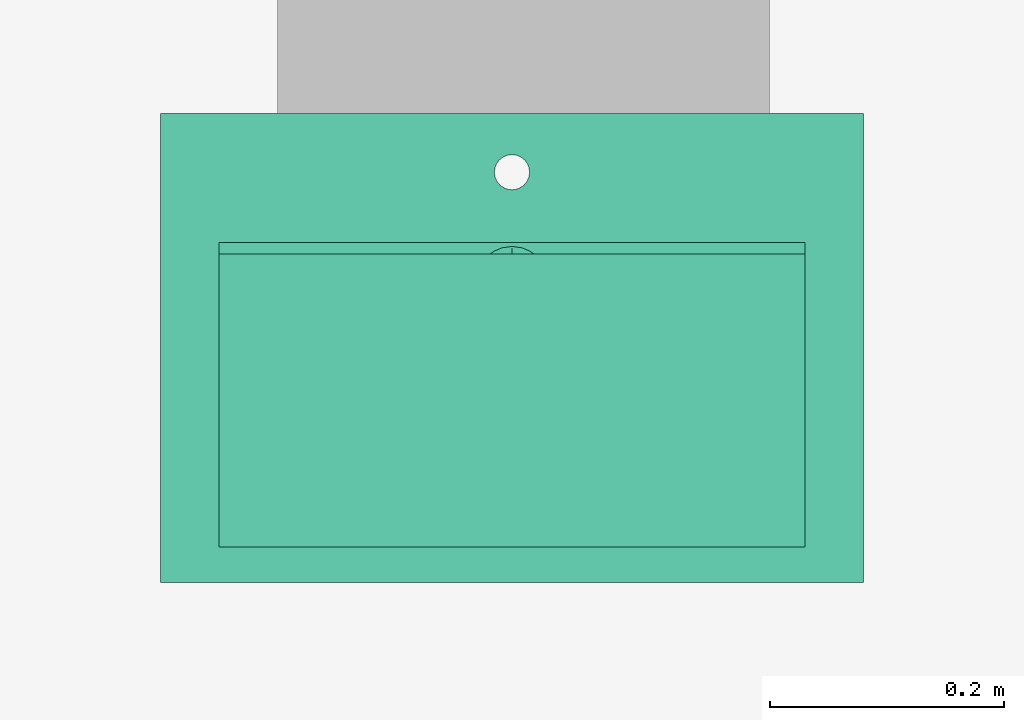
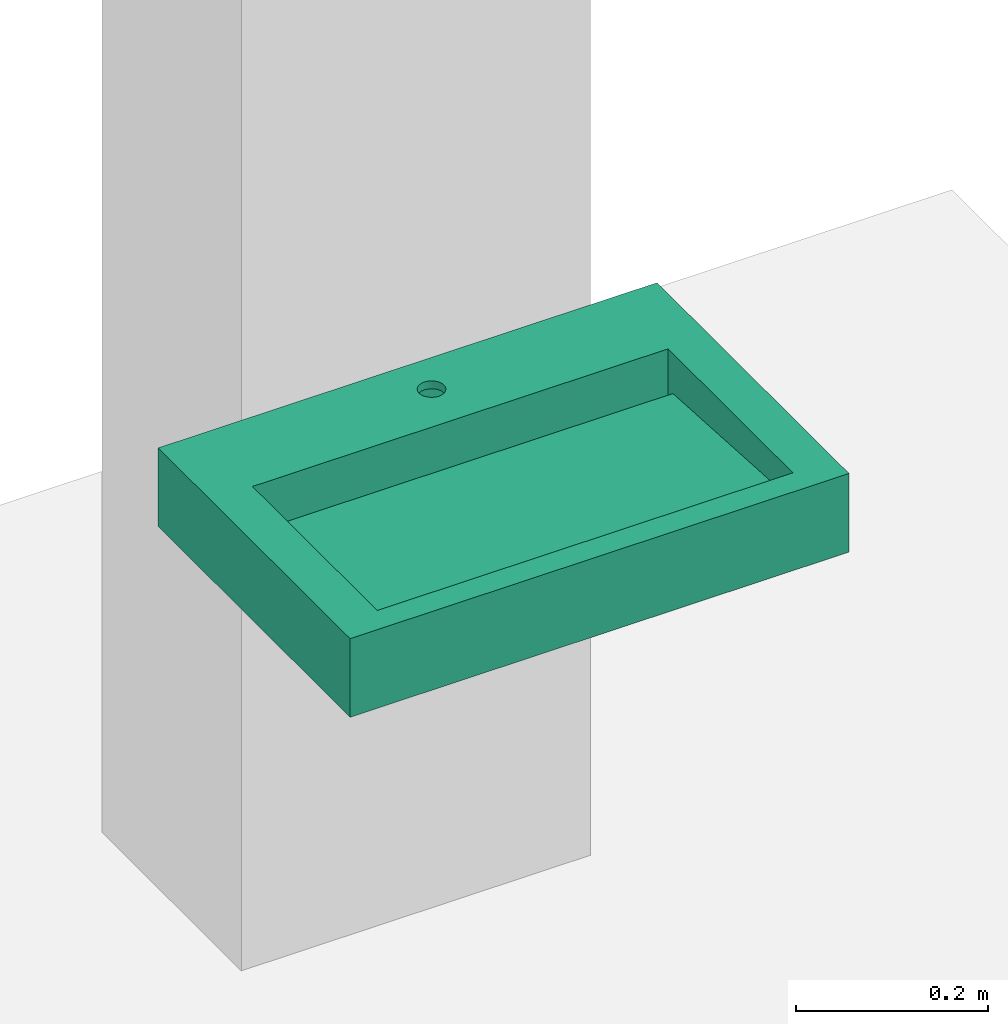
# One storey, part 2 of 2: 1 flow terminal.
"""IFC2X3 building model written with IfcOpenShell, lengths in millimetres."""

from ifc_helpers import new_model, entity, si_unit, converted_unit, derived_unit, direction, frame, origin, place, context, subcontext, project, spatial, faceted_brep, source, transform, mapped, material, element, save


model = new_model("IFC2X3")

# Units and contexts
model_context = context("Model", 3, precision=0.01, world=origin(), true_north=direction((6.12303176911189e-17, 1.0)))
context_of_model = context(None, 3, precision=0.01, world=origin(), true_north=direction((6.12303176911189e-17, 1.0)))
body_context = subcontext(model_context, "Body", "Model", "MODEL_VIEW")
ifc_project = project(units=[si_unit("LENGTHUNIT", "METRE", prefix="MILLI"), si_unit("AREAUNIT", "SQUARE_METRE"), si_unit("VOLUMEUNIT", "CUBIC_METRE"), converted_unit("PLANEANGLEUNIT", "DEGREE", entity("IfcRatioMeasure", 0.0174532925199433), si_unit("PLANEANGLEUNIT", "RADIAN"), dimensions=[0, 0, 0, 0, 0, 0, 0]), si_unit("MASSUNIT", "GRAM", prefix="KILO"), derived_unit("MASSDENSITYUNIT", [(si_unit("MASSUNIT", "GRAM", prefix="KILO"), 1), (si_unit("LENGTHUNIT", "METRE"), -3)]), si_unit("TIMEUNIT", "SECOND"), si_unit("FREQUENCYUNIT", "HERTZ"), si_unit("THERMODYNAMICTEMPERATUREUNIT", "DEGREE_CELSIUS"), derived_unit("THERMALTRANSMITTANCEUNIT", [(si_unit("MASSUNIT", "GRAM", prefix="KILO"), 1), (si_unit("THERMODYNAMICTEMPERATUREUNIT", "KELVIN"), -1), (si_unit("TIMEUNIT", "SECOND"), -3)]), derived_unit("VOLUMETRICFLOWRATEUNIT", [(si_unit("LENGTHUNIT", "METRE"), 3), (si_unit("TIMEUNIT", "SECOND"), -1)]), si_unit("ELECTRICCURRENTUNIT", "AMPERE"), si_unit("ELECTRICVOLTAGEUNIT", "VOLT"), si_unit("POWERUNIT", "WATT"), si_unit("FORCEUNIT", "NEWTON", prefix="KILO"), si_unit("ILLUMINANCEUNIT", "LUX"), si_unit("LUMINOUSFLUXUNIT", "LUMEN"), si_unit("LUMINOUSINTENSITYUNIT", "CANDELA"), derived_unit("USERDEFINED", [(si_unit("MASSUNIT", "GRAM", prefix="KILO"), -1), (si_unit("LENGTHUNIT", "METRE"), -2), (si_unit("TIMEUNIT", "SECOND"), 3), (si_unit("LUMINOUSFLUXUNIT", "LUMEN"), 1)]), derived_unit("LINEARVELOCITYUNIT", [(si_unit("LENGTHUNIT", "METRE"), 1), (si_unit("TIMEUNIT", "SECOND"), -1)]), si_unit("PRESSUREUNIT", "PASCAL"), derived_unit("USERDEFINED", [(si_unit("LENGTHUNIT", "METRE"), -2), (si_unit("MASSUNIT", "GRAM", prefix="KILO"), 1), (si_unit("TIMEUNIT", "SECOND"), -2)])], contexts=[model_context, context_of_model])

# Site, building, storey
site_placement = place(None, origin())
site = spatial("IfcSite", under=ifc_project, at=site_placement, Name="Default", CompositionType="ELEMENT")
building_placement = place(site_placement, origin())
building = spatial("IfcBuilding", under=site, at=building_placement, Name="n/a", CompositionType="ELEMENT")
storey_placement = place(building_placement, origin())
storey = spatial("IfcBuildingStorey", under=building, at=storey_placement, Name="Level 0", CompositionType="ELEMENT", Elevation=0.0)

# Flow terminal
ifc_material = material(Name="DBLTD_Neilur_SolidSurface_White")
shared_shape = source(origin(), body_context, "Body", "Brep", [
    faceted_brep([(550.0, 119.809705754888, 37.1775504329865), (550.0, 179.800043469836, 40.7774538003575), (550.0, 179.800043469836, 20.0), (550.0, 109.809705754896, 20.0), (550.0, 109.809705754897, 100.002105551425), (550.0, 369.777360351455, 100.002105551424), (550.0, 369.777360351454, 64.195190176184), (550.0, 119.809705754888, 49.1962705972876), (550.0, 191.799619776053, 41.497525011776), (550.0, 387.775045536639, 53.2576287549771), (550.0, 387.775045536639, 0.00210555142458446), (550.0, 191.799619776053, 0.00210555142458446), (50.0, 387.775045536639, 0.00210555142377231), (50.0, 387.775045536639, 53.2576287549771), (50.0, 191.799619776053, 41.497525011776), (50.0, 191.799619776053, 0.00210555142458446), (50.0, 119.809705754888, 49.1962705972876), (50.0, 369.777360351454, 64.195190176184), (50.0, 369.777360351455, 100.002105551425), (50.0, 109.809705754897, 100.002105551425), (50.0, 109.809705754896, 20.0), (50.0, 179.800043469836, 20.0), (50.0, 179.800043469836, 40.7774538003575), (50.0, 119.809705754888, 37.1775504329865), (600.0, 400.0, 100.002105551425), (600.0, 0.0, 100.002105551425), (0.0, 400.0, 100.002105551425), (0.0, 0.0, 100.002105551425), (285.511112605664, 46.0648817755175, 100.002105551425), (287.009618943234, 42.4471674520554, 100.002105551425), (289.393398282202, 39.3405657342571, 100.002105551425), (292.5, 36.9567863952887, 100.002105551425), (296.117714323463, 35.4582800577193, 100.002105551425), (300.0, 34.9471674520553, 100.002105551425), (314.488887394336, 46.0648817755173, 100.002105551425), (312.990381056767, 42.4471674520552, 100.002105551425), (310.606601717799, 39.340565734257, 100.002105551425), (307.5, 36.9567863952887, 100.002105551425), (303.882285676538, 35.4582800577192, 100.002105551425), (285.0, 49.9471674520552, 100.002105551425), (285.511112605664, 53.8294531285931, 100.002105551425), (287.009618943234, 57.4471674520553, 100.002105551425), (289.393398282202, 60.5537691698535, 100.002105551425), (292.5, 62.9375485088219, 100.002105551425), (296.117714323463, 64.4360548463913, 100.002105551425), (300.0, 64.9471674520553, 100.002105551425), (303.882285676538, 64.4360548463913, 100.002105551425), (307.5, 62.9375485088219, 100.002105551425), (310.606601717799, 60.5537691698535, 100.002105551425), (312.990381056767, 57.4471674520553, 100.002105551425), (314.488887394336, 53.8294531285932, 100.002105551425), (315.0, 49.9471674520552, 100.002105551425), (0.0, 400.0, 0.00210555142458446), (11.0, 102.54943937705, 0.00210555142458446), (0.0, 0.0, 0.00210555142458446), (600.0, 400.0, 0.00210555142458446), (589.0, 102.54943937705, 0.00210555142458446), (600.0, 0.0, 0.00210555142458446), (589.0, 11.0, 0.00210555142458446), (11.0, 11.0, 0.00210555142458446), (300.0, 129.760228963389, 0.00210555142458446), (303.89509121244, 130.273027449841, 0.00210555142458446), (307.524738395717, 131.776476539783, 0.00210555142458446), (310.641587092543, 134.168118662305, 0.00210555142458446), (314.536678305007, 140.914614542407, 0.00210555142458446), (313.033229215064, 137.28496735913, 0.00210555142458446), (315.049476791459, 144.809705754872, 0.00210555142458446), (314.536678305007, 148.704796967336, 0.00210555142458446), (313.033229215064, 152.334444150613, 0.00210555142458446), (310.641587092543, 155.451292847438, 0.00210555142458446), (307.524738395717, 157.84293496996, 0.00210555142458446), (303.89509121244, 159.346384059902, 0.00210555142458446), (300.0, 159.859182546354, 0.00210555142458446), (296.104908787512, 159.346384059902, 0.00210555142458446), (292.475261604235, 157.84293496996, 0.00210555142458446), (289.358412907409, 155.451292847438, 0.00210555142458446), (286.966770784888, 152.334444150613, 0.00210555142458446), (285.463321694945, 148.704796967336, 0.00210555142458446), (284.950523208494, 144.809705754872, 0.00210555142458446), (285.463321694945, 140.914614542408, 0.00210555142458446), (286.966770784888, 137.28496735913, 0.00210555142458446), (289.358412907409, 134.168118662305, 0.00210555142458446), (292.475261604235, 131.776476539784, 0.00210555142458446), (296.104908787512, 130.273027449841, 0.00210555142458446), (46.0, 0.0, 56.9303087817), (47.9294476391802, 0.0, 57.7295121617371), (44.343145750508, 0.0, 55.6589598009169), (50.0, 0.0, 58.0021055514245), (52.0705523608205, 0.0, 57.7295121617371), (54.0, 0.0, 56.9303087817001), (43.0717967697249, 0.0, 54.0021055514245), (42.2725933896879, 0.0, 52.0726579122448), (42.0, 0.0, 50.0021055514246), (42.2725933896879, 0.0, 47.9315531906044), (43.0717967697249, 0.0, 46.0021055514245), (44.343145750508, 0.0, 44.3452513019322), (46.0, 0.0, 43.073902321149), (47.9294476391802, 0.0, 42.2746989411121), (50.0, 0.0, 42.0021055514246), (52.0705523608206, 0.0, 42.2746989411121), (54.0, 0.0, 43.073902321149), (546.0, 0.0, 43.073902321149), (547.92944763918, 0.0, 42.2746989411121), (550.0, 0.0, 42.0021055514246), (552.070552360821, 0.0, 42.2746989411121), (554.0, 0.0, 43.073902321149), (555.656854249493, 0.0, 44.3452513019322), (556.928203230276, 0.0, 46.0021055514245), (557.727406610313, 0.0, 47.9315531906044), (558.0, 0.0, 50.0021055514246), (546.0, 0.0, 56.9303087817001), (547.92944763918, 0.0, 57.7295121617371), (550.0, 0.0, 58.0021055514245), (552.070552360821, 0.0, 57.7295121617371), (554.0, 0.0, 56.9303087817), (555.656854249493, 0.0, 55.6589598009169), (556.928203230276, 0.0, 54.0021055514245), (557.727406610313, 0.0, 52.0726579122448), (55.6568542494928, 0.0, 44.3452513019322), (544.343145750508, 0.0, 44.3452513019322), (56.9282032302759, 0.0, 46.0021055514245), (543.071796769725, 0.0, 46.0021055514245), (57.727406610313, 0.0, 47.9315531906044), (542.272593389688, 0.0, 47.9315531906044), (58.0, 0.0, 50.0021055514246), (542.0, 0.0, 50.0021055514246), (542.272593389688, 0.0, 52.0726579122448), (57.727406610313, 0.0, 52.0726579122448), (543.071796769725, 0.0, 54.0021055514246), (56.9282032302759, 0.0, 54.0021055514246), (544.343145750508, 0.0, 55.6589598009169), (55.6568542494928, 0.0, 55.6589598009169), (287.009618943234, 42.4471674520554, 90.0021055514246), (285.511112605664, 46.0648817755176, 90.0021055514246), (285.0, 49.9471674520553, 90.0021055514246), (296.117714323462, 35.4582800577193, 90.0021055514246), (292.5, 36.9567863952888, 90.0021055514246), (289.393398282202, 39.3405657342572, 90.0021055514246), (300.0, 34.9471674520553, 90.0021055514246), (310.606601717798, 39.3405657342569, 90.0021055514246), (307.5, 36.9567863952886, 90.0021055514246), (303.882285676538, 35.4582800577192, 90.0021055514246), (315.0, 49.947167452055, 90.0021055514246), (314.488887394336, 46.0648817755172, 90.0021055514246), (312.990381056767, 42.4471674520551, 90.0021055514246), (312.990381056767, 57.4471674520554, 90.0021055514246), (314.488887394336, 53.8294531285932, 90.0021055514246), (303.882285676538, 64.4360548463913, 90.0021055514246), (307.5, 62.9375485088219, 90.0021055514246), (310.606601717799, 60.5537691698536, 90.0021055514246), (300.0, 64.9471674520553, 90.0021055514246), (296.117714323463, 64.4360548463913, 90.0021055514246), (292.5, 62.9375485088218, 90.0021055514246), (289.393398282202, 60.5537691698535, 90.0021055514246), (285.511112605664, 53.829453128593, 90.0021055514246), (287.009618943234, 57.4471674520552, 90.0021055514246), (589.0, 102.54943937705, 90.0021055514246), (11.0, 102.54943937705, 90.0021055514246), (11.0, 11.0, 90.0021055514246), (589.0, 11.0, 90.0021055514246), (47.9294476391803, 11.0, 57.7295121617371), (46.0, 11.0, 56.9303087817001), (50.0, 11.0, 58.0021055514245), (44.3431457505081, 11.0, 55.6589598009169), (43.071796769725, 11.0, 54.0021055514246), (42.2725933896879, 11.0, 52.0726579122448), (42.0, 11.0, 50.0021055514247), (42.2725933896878, 11.0, 47.9315531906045), (43.0717967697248, 11.0, 46.0021055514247), (44.343145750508, 11.0, 44.3452513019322), (46.0, 11.0, 43.0739023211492), (47.9294476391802, 11.0, 42.2746989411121), (50.0, 11.0, 42.0021055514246), (52.0705523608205, 11.0, 42.2746989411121), (54.0, 11.0, 43.073902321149), (55.6568542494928, 11.0, 44.3452513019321), (544.343145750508, 11.0, 44.3452513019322), (56.9282032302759, 11.0, 46.0021055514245), (543.071796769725, 11.0, 46.0021055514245), (57.727406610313, 11.0, 47.9315531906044), (542.272593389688, 11.0, 47.9315531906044), (58.0, 11.0, 50.0021055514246), (542.0, 11.0, 50.0021055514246), (542.272593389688, 11.0, 52.0726579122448), (57.727406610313, 11.0, 52.0726579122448), (543.071796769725, 11.0, 54.0021055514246), (56.9282032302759, 11.0, 54.0021055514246), (544.343145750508, 11.0, 55.6589598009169), (55.6568542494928, 11.0, 55.6589598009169), (546.0, 11.0, 56.9303087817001), (54.0, 11.0, 56.9303087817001), (52.0705523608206, 11.0, 57.7295121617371), (547.92944763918, 11.0, 57.7295121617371), (550.0, 11.0, 58.0021055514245), (552.070552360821, 11.0, 57.7295121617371), (554.0, 11.0, 56.9303087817), (555.656854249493, 11.0, 55.6589598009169), (556.928203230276, 11.0, 54.0021055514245), (557.727406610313, 11.0, 52.0726579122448), (558.0, 11.0, 50.0021055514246), (557.727406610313, 11.0, 47.9315531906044), (546.0, 11.0, 43.073902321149), (547.92944763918, 11.0, 42.2746989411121), (550.0, 11.0, 42.0021055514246), (552.070552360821, 11.0, 42.2746989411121), (554.0, 11.0, 43.073902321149), (555.656854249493, 11.0, 44.3452513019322), (556.928203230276, 11.0, 46.0021055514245), (330.425250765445, 136.657284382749, 20.0), (327.278533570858, 129.060437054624, 20.0), (331.49853740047, 144.809705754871, 20.0), (322.272829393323, 122.536876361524, 20.0), (315.749268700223, 117.53117218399, 20.0), (308.152421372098, 114.384454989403, 20.0), (300.0, 113.311168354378, 20.0), (291.847578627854, 114.384454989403, 20.0), (284.250731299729, 117.53117218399, 20.0), (277.727170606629, 122.536876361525, 20.0), (272.721466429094, 129.060437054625, 20.0), (269.574749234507, 136.65728438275, 20.0), (268.501462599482, 144.809705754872, 20.0), (269.574749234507, 152.962127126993, 20.0), (272.721466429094, 160.558974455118, 20.0), (277.727170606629, 167.082535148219, 20.0), (284.250731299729, 172.088239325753, 20.0), (291.847578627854, 175.234956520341, 20.0), (300.0, 176.308243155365, 20.0), (308.152421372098, 175.234956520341, 20.0), (315.749268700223, 172.088239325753, 20.0), (322.272829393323, 167.082535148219, 20.0), (327.278533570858, 160.558974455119, 20.0), (330.425250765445, 152.962127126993, 20.0), (313.94750436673, 147.470102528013, 8.48224376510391), (311.743559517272, 152.790896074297, 8.48224376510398), (312.845531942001, 150.130499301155, 8.48224376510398), (302.660396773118, 158.757210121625, 8.48224376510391), (292.018809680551, 156.553265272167, 8.48224376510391), (300.0, 159.859182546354, 8.48224376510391), (307.981190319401, 156.553265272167, 8.48224376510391), (310.641587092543, 155.451292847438, 8.48224376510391), (315.049476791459, 144.809705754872, 8.48224376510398), (286.052495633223, 147.470102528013, 8.48224376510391), (305.320793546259, 157.655237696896, 8.48224376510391), (289.358412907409, 155.451292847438, 8.48224376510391), (297.339603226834, 158.757210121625, 8.48224376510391), (294.679206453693, 157.655237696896, 8.48224376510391), (284.950523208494, 144.809705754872, 8.48224376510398), (288.25644048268, 152.790896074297, 8.48224376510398), (287.154468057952, 150.130499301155, 8.48224376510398), (286.052495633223, 142.14930898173, 8.48224376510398), (288.25644048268, 136.828515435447, 8.48224376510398), (287.154468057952, 139.488912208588, 8.48224376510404), (297.339603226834, 130.862201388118, 8.48224376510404), (307.981190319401, 133.066146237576, 8.48224376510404), (300.0, 129.760228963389, 8.48224376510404), (292.018809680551, 133.066146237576, 8.48224376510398), (289.358412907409, 134.168118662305, 8.48224376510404), (313.94750436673, 142.14930898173, 8.48224376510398), (294.679206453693, 131.964173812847, 8.48224376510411), (310.641587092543, 134.168118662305, 8.48224376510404), (302.660396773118, 130.862201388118, 8.48224376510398), (305.320793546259, 131.964173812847, 8.48224376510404), (311.743559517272, 136.828515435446, 8.48224376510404), (312.845531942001, 139.488912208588, 8.48224376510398)], [[[0, 1, 2, 3, 4, 5, 6, 7]], [[8, 9, 10, 11]], [[12, 13, 14, 15]], [[16, 17, 18, 19, 20, 21, 22, 23]], [[24, 5, 4]], [[5, 24, 18]], [[24, 4, 25]], [[26, 18, 24]], [[18, 26, 19]], [[26, 27, 19]], [[19, 27, 28]], [[27, 29, 28]], [[29, 27, 30]], [[31, 30, 27]], [[31, 27, 32]], [[33, 32, 27]], [[33, 27, 25]], [[25, 4, 34]], [[25, 34, 35]], [[35, 36, 25]], [[36, 37, 25]], [[37, 38, 25]], [[25, 38, 33]], [[39, 19, 28]], [[40, 19, 39]], [[40, 41, 19]], [[41, 42, 19]], [[43, 19, 42]], [[44, 19, 43]], [[19, 44, 45]], [[46, 4, 45]], [[4, 19, 45]], [[47, 4, 46]], [[47, 48, 4]], [[48, 49, 4]], [[4, 49, 50]], [[51, 4, 50]], [[34, 4, 51]], [[52, 12, 15]], [[12, 52, 10]], [[52, 15, 53]], [[53, 54, 52]], [[55, 10, 52]], [[10, 55, 11]], [[55, 56, 11]], [[57, 56, 55]], [[56, 57, 58]], [[54, 58, 57]], [[59, 58, 54]], [[53, 60, 56]], [[61, 56, 60]], [[56, 61, 62]], [[63, 56, 62]], [[64, 11, 56]], [[65, 64, 56]], [[63, 65, 56]], [[66, 11, 64]], [[67, 11, 66]], [[67, 68, 11]], [[68, 69, 11]], [[70, 11, 69]], [[70, 71, 11]], [[11, 71, 72]], [[73, 15, 72]], [[15, 11, 72]], [[74, 15, 73]], [[75, 15, 74]], [[75, 76, 15]], [[76, 77, 15]], [[15, 77, 78]], [[79, 15, 78]], [[53, 15, 79]], [[79, 80, 53]], [[80, 81, 53]], [[53, 81, 82]], [[53, 82, 83]], [[53, 83, 60]], [[59, 54, 53]], [[26, 24, 55, 52]], [[27, 26, 52, 54]], [[27, 84, 85]], [[84, 27, 86]], [[27, 85, 87]], [[87, 88, 27]], [[88, 89, 27]], [[25, 27, 89]], [[90, 86, 27]], [[91, 90, 27]], [[27, 92, 91]], [[92, 27, 54]], [[93, 92, 54]], [[94, 93, 54]], [[54, 95, 94]], [[95, 54, 96]], [[96, 54, 97]], [[98, 97, 54]], [[99, 98, 54]], [[100, 99, 54]], [[57, 100, 54]], [[100, 57, 101]], [[102, 101, 57]], [[103, 102, 57]], [[57, 104, 103]], [[104, 57, 105]], [[106, 105, 57]], [[106, 57, 107]], [[108, 107, 57]], [[109, 108, 57]], [[109, 57, 25]], [[25, 89, 110]], [[110, 111, 25]], [[111, 112, 25]], [[113, 25, 112]], [[25, 113, 114]], [[25, 114, 115]], [[115, 116, 25]], [[116, 117, 25]], [[25, 117, 109]], [[100, 101, 118]], [[119, 118, 101]], [[120, 118, 119]], [[119, 121, 120]], [[122, 120, 121]], [[121, 123, 122]], [[123, 124, 122]], [[124, 123, 125]], [[125, 126, 124]], [[127, 124, 126]], [[126, 128, 127]], [[129, 127, 128]], [[128, 130, 129]], [[131, 129, 130]], [[131, 130, 110]], [[110, 89, 131]], [[24, 25, 57, 55]], [[29, 132, 133, 28]], [[28, 133, 134, 39]], [[32, 135, 136, 31]], [[31, 136, 137, 30]], [[30, 137, 132, 29]], [[135, 32, 33, 138]], [[36, 139, 140, 37]], [[37, 140, 141, 38]], [[51, 142, 143, 34]], [[34, 143, 144, 35]], [[35, 144, 139, 36]], [[138, 33, 38, 141]], [[49, 145, 146, 50]], [[50, 146, 142, 51]], [[46, 147, 148, 47]], [[47, 148, 149, 48]], [[48, 149, 145, 49]], [[46, 45, 150, 147]], [[151, 44, 43, 152]], [[152, 43, 42, 153]], [[154, 155, 41, 40]], [[41, 155, 153, 42]], [[134, 154, 40, 39]], [[150, 45, 44, 151]], [[146, 145, 156]], [[142, 146, 156]], [[149, 156, 145]], [[156, 149, 148]], [[156, 148, 147]], [[156, 147, 150]], [[150, 157, 156]], [[157, 150, 151]], [[157, 151, 152]], [[157, 152, 153]], [[153, 155, 157]], [[154, 157, 155]], [[157, 154, 134]], [[134, 158, 157]], [[158, 134, 133]], [[158, 133, 132]], [[132, 137, 158]], [[136, 158, 137]], [[158, 136, 135]], [[158, 135, 138]], [[159, 158, 138]], [[138, 141, 159]], [[159, 141, 140]], [[159, 140, 139]], [[159, 139, 144]], [[144, 143, 159]], [[143, 142, 159]], [[156, 159, 142]], [[56, 156, 157, 53]], [[53, 157, 158, 59]], [[160, 161, 158]], [[162, 160, 158]], [[163, 158, 161]], [[158, 163, 164]], [[158, 164, 165]], [[158, 165, 166]], [[166, 59, 158]], [[59, 166, 167]], [[59, 167, 168]], [[168, 169, 59]], [[170, 59, 169]], [[171, 59, 170]], [[59, 171, 172]], [[59, 172, 173]], [[59, 173, 174]], [[174, 175, 59]], [[58, 59, 175]], [[58, 175, 176]], [[177, 176, 175]], [[176, 177, 178]], [[178, 177, 179]], [[179, 180, 178]], [[180, 179, 181]], [[181, 182, 180]], [[183, 182, 181]], [[181, 184, 183]], [[184, 185, 183]], [[185, 184, 186]], [[186, 187, 185]], [[187, 186, 188]], [[189, 187, 188]], [[188, 190, 189]], [[158, 190, 191]], [[190, 158, 159]], [[189, 190, 159]], [[159, 192, 189]], [[159, 193, 192]], [[193, 159, 194]], [[195, 194, 159]], [[196, 195, 159]], [[159, 197, 196]], [[159, 198, 197]], [[159, 199, 198]], [[58, 199, 159]], [[199, 58, 200]], [[158, 191, 162]], [[58, 176, 201]], [[58, 201, 202]], [[58, 202, 203]], [[203, 204, 58]], [[205, 58, 204]], [[58, 205, 206]], [[207, 58, 206]], [[58, 207, 200]], [[58, 159, 156, 56]], [[17, 6, 5, 18]], [[20, 19, 4, 3]], [[208, 209, 3]], [[210, 208, 3]], [[211, 3, 209]], [[3, 211, 212]], [[3, 212, 213]], [[3, 213, 214]], [[214, 20, 3]], [[20, 214, 215]], [[20, 215, 216]], [[20, 216, 217]], [[217, 218, 20]], [[219, 20, 218]], [[20, 219, 220]], [[220, 21, 20]], [[21, 220, 221]], [[21, 221, 222]], [[222, 223, 21]], [[224, 21, 223]], [[21, 224, 225]], [[21, 225, 226]], [[2, 21, 226]], [[226, 227, 2]], [[2, 227, 228]], [[2, 228, 229]], [[2, 229, 230]], [[230, 231, 2]], [[231, 210, 2]], [[3, 2, 210]], [[21, 2, 1, 22]], [[23, 22, 1, 0]], [[13, 9, 8, 14]], [[16, 23, 0, 7]], [[17, 16, 7, 6]], [[14, 8, 11, 15]], [[12, 10, 9, 13]], [[199, 109, 117, 198]], [[198, 117, 116, 197]], [[195, 196, 115, 114]], [[115, 196, 197, 116]], [[194, 195, 114, 113]], [[194, 113, 112, 193]], [[193, 112, 111, 192]], [[192, 111, 110, 189]], [[185, 187, 130, 128]], [[130, 187, 189, 110]], [[183, 185, 128, 126]], [[183, 126, 125, 182]], [[182, 125, 123, 180]], [[180, 123, 121, 178]], [[201, 176, 119, 101]], [[119, 176, 178, 121]], [[202, 201, 101, 102]], [[202, 102, 103, 203]], [[203, 103, 104, 204]], [[204, 104, 105, 205]], [[207, 206, 106, 107]], [[106, 206, 205, 105]], [[200, 207, 107, 108]], [[200, 108, 109, 199]], [[166, 92, 93, 167]], [[167, 93, 94, 168]], [[170, 169, 95, 96]], [[94, 95, 169, 168]], [[171, 170, 96, 97]], [[98, 172, 171, 97]], [[173, 99, 100, 174]], [[174, 100, 118, 175]], [[179, 177, 120, 122]], [[118, 120, 177, 175]], [[181, 179, 122, 124]], [[173, 172, 98, 99]], [[181, 124, 127, 184]], [[184, 127, 129, 186]], [[190, 188, 131, 89]], [[129, 131, 188, 186]], [[191, 190, 89, 88]], [[87, 162, 191, 88]], [[160, 85, 84, 161]], [[161, 84, 86, 163]], [[165, 164, 90, 91]], [[86, 90, 164, 163]], [[166, 165, 91, 92]], [[160, 162, 87, 85]], [[67, 66, 232]], [[68, 233, 69]], [[67, 232, 234, 233, 68]], [[71, 235, 72]], [[74, 236, 75]], [[237, 72, 235]], [[238, 69, 239]], [[232, 66, 240]], [[239, 69, 233]], [[77, 241, 78]], [[71, 70, 238, 242, 235]], [[70, 69, 238]], [[243, 75, 236]], [[244, 72, 237]], [[245, 236, 74, 73, 244]], [[246, 78, 241]], [[243, 247, 75]], [[247, 76, 75]], [[76, 247, 248, 241, 77]], [[244, 73, 72]], [[79, 78, 249]], [[80, 250, 81]], [[79, 249, 251, 250, 80]], [[83, 252, 60]], [[62, 253, 63]], [[254, 60, 252]], [[255, 81, 256]], [[249, 78, 246]], [[256, 81, 250]], [[64, 257, 66]], [[83, 82, 255, 258, 252]], [[82, 81, 255]], [[259, 63, 253]], [[260, 60, 254]], [[261, 253, 62, 61, 260]], [[240, 66, 257]], [[259, 262, 63]], [[262, 65, 63]], [[65, 262, 263, 257, 64]], [[260, 61, 60]], [[239, 233, 229]], [[240, 210, 232]], [[235, 227, 226]], [[226, 237, 235]], [[239, 229, 238]], [[228, 227, 235, 242, 238]], [[243, 223, 247]], [[241, 220, 246]], [[229, 233, 230]], [[230, 233, 234, 232, 231]], [[222, 221, 241, 248, 247]], [[237, 226, 244]], [[243, 236, 223]], [[225, 224, 236, 245, 244]], [[224, 223, 236]], [[231, 232, 210]], [[222, 247, 223]], [[241, 221, 220]], [[228, 238, 229]], [[225, 244, 226]], [[256, 250, 217]], [[246, 220, 249]], [[252, 215, 214]], [[214, 254, 252]], [[256, 217, 255]], [[215, 252, 258, 255, 216]], [[213, 260, 214]], [[217, 250, 218]], [[218, 250, 251, 249, 219]], [[219, 249, 220]], [[259, 211, 262]], [[257, 210, 240]], [[216, 255, 217]], [[209, 262, 211]], [[209, 208, 257, 263, 262]], [[210, 257, 208]], [[213, 212, 253, 261, 260]], [[211, 253, 212]], [[259, 253, 211]], [[254, 214, 260]]]),
])
flow_terminal_placement = place(storey_placement, frame((2767.55113487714, 652.680190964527, 600.0), z_axis=(0.0, 0.0, 1.0), x_axis=(-1.0, 0.0, 0.0)))
element("IfcFlowTerminal", 1, at=flow_terminal_placement, inside=storey, material=ifc_material, Name="17", ObjectType="DBLTD_Duten_WallHungWashBasins_700370:Wall Mounted Basin", context=body_context, shape_type="MappedRepresentation", body=[
    mapped(shared_shape, transform((0.0, 0.0, 0.0), scale=1.0)),
])

save(model, "model.ifc")
